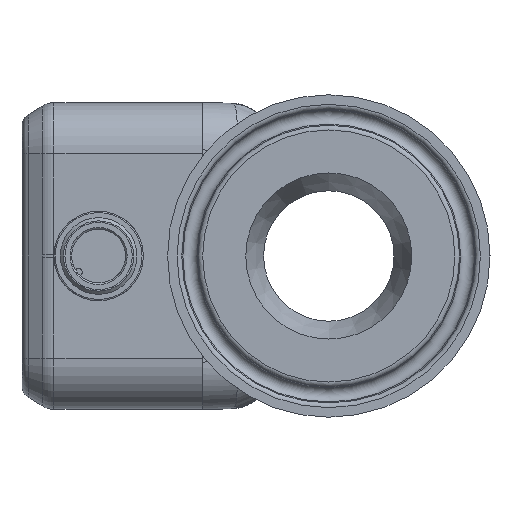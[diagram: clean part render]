
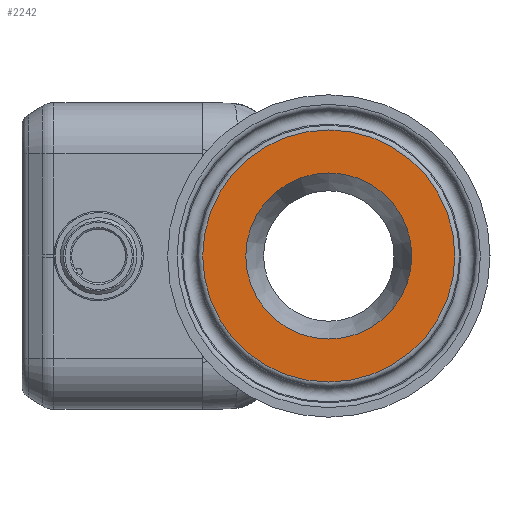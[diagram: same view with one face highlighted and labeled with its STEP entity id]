
A CAD part, left-side view. The second image highlights one B-rep face of the part: STEP entity #2242.
In plain terms, the highlighted planar face has unit normal (-1, 0, 0).
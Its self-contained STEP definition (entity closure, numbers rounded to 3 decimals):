
#126=CIRCLE('',#2426,19.747);
#127=CIRCLE('',#2427,13.);
#172=PLANE('',#2425);
#562=ORIENTED_EDGE('',*,*,#782,.F.);
#563=ORIENTED_EDGE('',*,*,#783,.T.);
#782=EDGE_CURVE('',#911,#911,#126,.T.);
#783=EDGE_CURVE('',#912,#912,#127,.T.);
#911=VERTEX_POINT('',#3585);
#912=VERTEX_POINT('',#3587);
#1168=EDGE_LOOP('',(#562));
#1169=EDGE_LOOP('',(#563));
#1319=FACE_BOUND('',#1168,.T.);
#1320=FACE_BOUND('',#1169,.T.);
#2242=ADVANCED_FACE('',(#1319,#1320),#172,.F.);
#2425=AXIS2_PLACEMENT_3D('',#3583,#2848,#2849);
#2426=AXIS2_PLACEMENT_3D('',#3584,#2850,#2851);
#2427=AXIS2_PLACEMENT_3D('',#3586,#2852,#2853);
#2848=DIRECTION('',(1.,0.,0.));
#2849=DIRECTION('',(0.,0.,-1.));
#2850=DIRECTION('',(1.,0.,0.));
#2851=DIRECTION('',(0.,0.,-1.));
#2852=DIRECTION('',(1.,0.,0.));
#2853=DIRECTION('',(0.,0.,-1.));
#3583=CARTESIAN_POINT('',(-102.5,-3.915,0.));
#3584=CARTESIAN_POINT('',(-102.5,-3.915,0.));
#3585=CARTESIAN_POINT('',(-102.5,-3.915,-19.747));
#3586=CARTESIAN_POINT('',(-102.5,-3.915,0.));
#3587=CARTESIAN_POINT('',(-102.5,-3.915,-13.));
